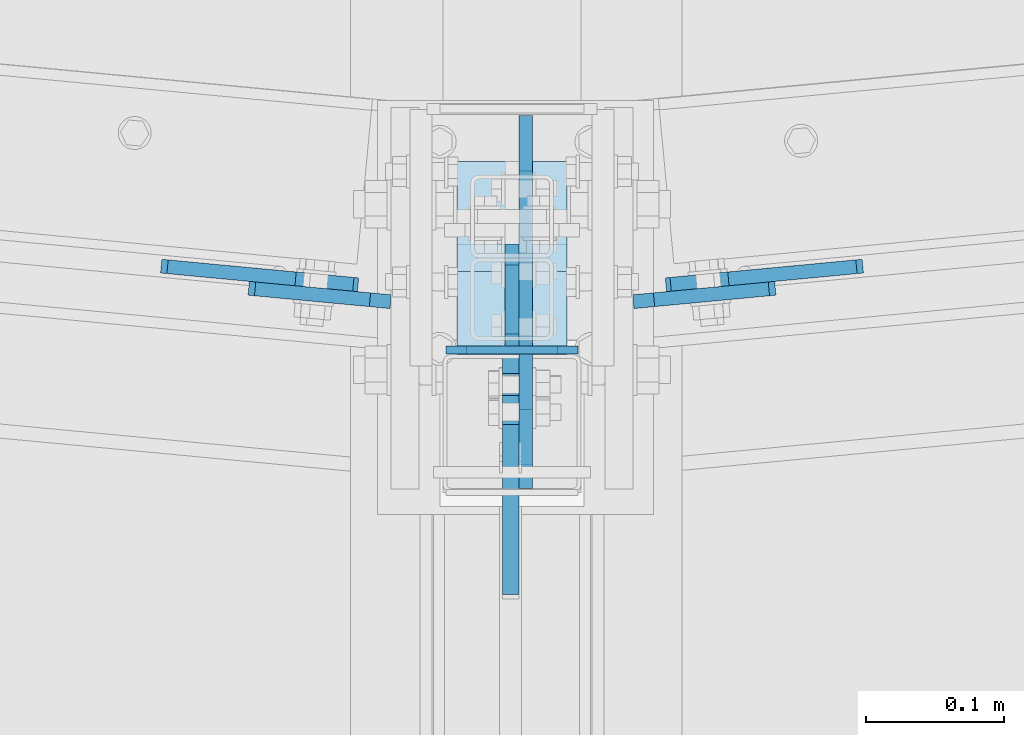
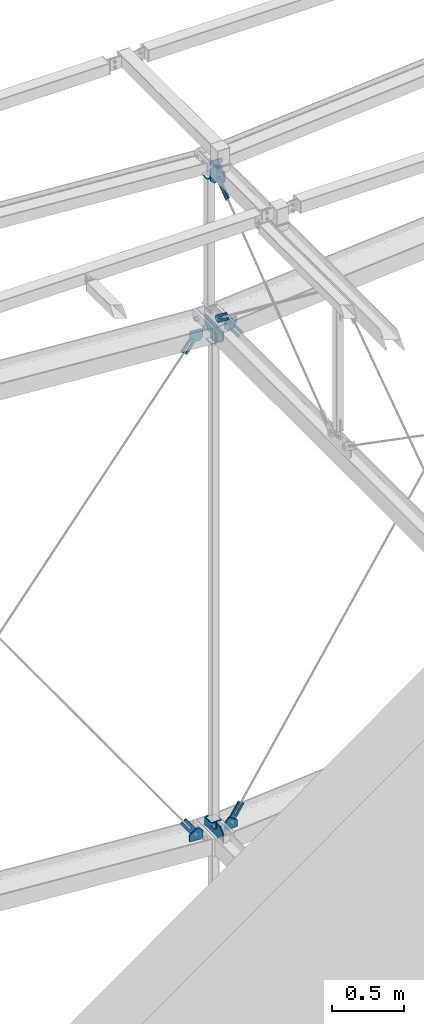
# One storey, part 129 of 271: 20 plates, 15 elements without a shape of their own.
"""IFC2X3 building model written with IfcOpenShell, lengths in millimetres."""

from ifc_helpers import new_model, si_unit, frame, origin_with_axes, place, context, subcontext, project, spatial, polyline, outline, extrude, boolean, material, type_object, element, aggregate, save


model = new_model("IFC2X3")

# Units and contexts
model_context = context("Model", 3, precision=1e-05, world=origin_with_axes())
body_context = subcontext(model_context, "Body", "Model", "MODEL_VIEW")
ifc_project = project(units=[si_unit("LENGTHUNIT", "METRE", prefix="MILLI"), si_unit("AREAUNIT", "SQUARE_METRE"), si_unit("VOLUMEUNIT", "CUBIC_METRE"), si_unit("MASSUNIT", "GRAM", prefix="KILO"), si_unit("TIMEUNIT", "SECOND"), si_unit("PLANEANGLEUNIT", "RADIAN"), si_unit("SOLIDANGLEUNIT", "STERADIAN"), si_unit("THERMODYNAMICTEMPERATUREUNIT", "DEGREE_CELSIUS"), si_unit("LUMINOUSINTENSITYUNIT", "LUMEN")], contexts=[model_context])

# Site, building, storey
site_placement = place(None, origin_with_axes())
site = spatial("IfcSite", under=ifc_project, at=site_placement, Name="Undefined", CompositionType="ELEMENT")
building_placement = place(site_placement, origin_with_axes())
building = spatial("IfcBuilding", under=site, at=building_placement, Name="Undefined", CompositionType="ELEMENT")
storey_placement = place(building_placement, origin_with_axes())
storey = spatial("IfcBuildingStorey", under=building, at=storey_placement, Name="Undefined", CompositionType="ELEMENT", Elevation=0.0)

# Assembly, plate
assembly_1_placement = place(storey_placement, origin_with_axes())
assembly_1 = element("IfcElementAssembly", 1, at=assembly_1_placement, inside=storey, AssemblyPlace="NOTDEFINED", PredefinedType="RIGID_FRAME")
ifc_material = material(Name="STEEL/S355JR")
plate_type_1 = type_object("IfcPlateType", Name="BL12*56", PredefinedType="NOTDEFINED")
plate_1_placement = place(assembly_1_placement, frame((6347.37568736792, 3668.01094283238, 18742.7637717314), z_axis=(-1.0, 0.0, 1.38777878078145e-17), x_axis=(0.0, 0.130151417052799, -0.991494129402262)))
plate_1 = element("IfcPlate", 2, at=plate_1_placement, type_object=plate_type_1, material=ifc_material, Name="BLACHA", ObjectType="BL12*56", context=body_context, shape_type="SweptSolid", body=[
    extrude(outline(polyline([(0.0, 0.0), (21.2132034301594, 1.09139364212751e-11), (39.5979804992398, 18.3847751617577), (39.5979804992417, 39.5979804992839), (-84.1457061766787, 163.341659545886), (-98.2878417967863, 149.199523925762), (-27.577165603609, 78.488853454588), (-38.8908729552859, 67.1751480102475), (-109.60155487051, 137.885818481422), (-123.743690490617, 123.743690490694), (0.0, 0.0)])), frame((0.0, 0.0, -6.0), z_axis=(0.0, 0.0, 1.0), x_axis=(1.0, 0.0, 0.0)), (0.0, 0.0, 1.0), 12.0),
])
aggregate(assembly_1, [plate_1])

assembly_2_placement = place(storey_placement, origin_with_axes())
assembly_2 = element("IfcElementAssembly", 3, at=assembly_2_placement, inside=storey, AssemblyPlace="NOTDEFINED", PredefinedType="RIGID_FRAME")
plate_2_placement = place(assembly_2_placement, frame((6347.37568736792, 3614.09767430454, 19935.1416729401), z_axis=(-1.0, 0.0, 1.38777878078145e-17), x_axis=(0.0, 0.991494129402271, -0.130151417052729)))
plate_2 = element("IfcPlate", 4, at=plate_2_placement, type_object=plate_type_1, material=ifc_material, Name="BLACHA", ObjectType="BL12*56", context=body_context, shape_type="SweptSolid", body=[
    extrude(outline(polyline([(0.0, 0.0), (21.2132034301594, 1.09139364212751e-11), (39.5979804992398, 18.3847751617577), (39.5979804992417, 39.5979804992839), (-70.0035705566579, 149.199523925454), (-84.1457061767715, 135.057388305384), (-13.4350299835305, 64.3467178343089), (-24.7487373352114, 53.0330085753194), (-95.4594192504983, 123.74369049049), (-109.601554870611, 109.601554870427), (0.0, 0.0)])), frame((0.0, 0.0, -6.0), z_axis=(0.0, 0.0, 1.0), x_axis=(1.0, 0.0, 0.0)), (0.0, 0.0, 1.0), 12.0),
])
aggregate(assembly_2, [plate_2])

# Assembly, plates
assembly_3_placement = place(storey_placement, origin_with_axes())
assembly_3 = element("IfcElementAssembly", 5, at=assembly_3_placement, inside=storey, AssemblyPlace="NOTDEFINED", PredefinedType="RIGID_FRAME")
plate_type_2 = type_object("IfcPlateType", Name="BL10*70", PredefinedType="NOTDEFINED")
plate_3_placement = place(assembly_3_placement, frame((6348.37568736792, 3664.92439872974, 18566.5999999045), z_axis=(-1.0, 0.0, 1.38777878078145e-17), x_axis=(0.0, 0.707106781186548, 0.707106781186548)))
plate_3 = element("IfcPlate", 6, at=plate_3_placement, type_object=plate_type_2, material=ifc_material, Name="BLACHA", ObjectType="BL10*70", context=body_context, shape_type="SweptSolid", body=[
    extrude(outline(polyline([(0.0, 0.0), (21.2132034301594, 1.09139364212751e-11), (56.5685424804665, 35.3553390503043), (56.568542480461, 56.5685424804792), (17.6776695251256, 95.4594192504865), (-38.890872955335, 38.8908729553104), (0.0, 0.0)])), frame((0.0, 0.0, -5.0), z_axis=(0.0, 0.0, 1.0), x_axis=(1.0, 0.0, 0.0)), (0.0, 0.0, 1.0), 10.0),
])
plate_4_placement = place(assembly_3_placement, frame((6348.37568736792, 3744.92439872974, 14402.0999999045), z_axis=(-1.0, 0.0, 1.38777878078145e-17), x_axis=(0.0, -0.707106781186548, -0.707106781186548)))
plate_4 = element("IfcPlate", 7, at=plate_4_placement, type_object=plate_type_2, material=ifc_material, Name="BLACHA", ObjectType="BL10*70", context=body_context, shape_type="SweptSolid", body=[
    extrude(outline(polyline([(0.0, 0.0), (21.2132034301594, 1.09139364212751e-11), (56.5685424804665, 35.3553390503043), (56.568542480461, 56.5685424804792), (17.6776695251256, 95.4594192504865), (-38.890872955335, 38.8908729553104), (0.0, 0.0)])), frame((0.0, 0.0, -5.0), z_axis=(0.0, 0.0, 1.0), x_axis=(1.0, 0.0, 0.0)), (0.0, 0.0, 1.0), 10.0),
])

# Assembly, plate
assembly_4_placement = place(storey_placement, origin_with_axes())
assembly_4 = element("IfcElementAssembly", 8, at=assembly_4_placement, inside=storey, AssemblyPlace="NOTDEFINED", PredefinedType="RIGID_FRAME")
plate_type_3 = type_object("IfcPlateType", Name="BL10*130", PredefinedType="NOTDEFINED")
plate_5_placement = place(assembly_4_placement, frame((6358.37568736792, 3567.92439872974, 20001.8499999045), z_axis=(-1.0, 0.0, 1.38777878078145e-17), x_axis=(0.0, 1.0, 0.0)))
plate_5 = element("IfcPlate", 9, at=plate_5_placement, type_object=plate_type_3, material=ifc_material, Name="BLACHA", ObjectType="BL10*130", context=body_context, shape_type="CSG", body=[
    boolean("DIFFERENCE", extrude(outline(polyline([(0.0, 15.0), (15.0, -1.59872115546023e-14), (256.0, 0.0), (271.0, 15.0), (271.0, 90.0000000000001), (231.0, 130.0), (50.0, 130.0), (0.0, 80.0), (0.0, 15.0)])), frame((0.0, 0.0, -5.0), z_axis=(0.0, 0.0, 1.0), x_axis=(1.0, 0.0, 0.0)), (0.0, 0.0, 1.0), 10.0), extrude(outline(polyline([(0.0, 0.0), (115.0, 0.0), (130.0, 15.0), (130.0, 81.0), (115.0, 96.0), (0.0, 96.0), (0.0, 0.0)])), frame((97.1775529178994, 130.0, 58.0000002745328), z_axis=(1.0, 0.0, 0.0), x_axis=(0.0, -1.0, 0.0)), (0.0, 0.0, 1.0), 300.0)),
])

assembly_5_placement = place(storey_placement, origin_with_axes())
assembly_5 = element("IfcElementAssembly", 10, at=assembly_5_placement, inside=storey, AssemblyPlace="NOTDEFINED", PredefinedType="RIGID_FRAME")
plate_type_4 = type_object("IfcPlateType", Name="BL8*80", PredefinedType="NOTDEFINED")
plate_6_placement = place(assembly_5_placement, frame((6308.37568736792, 3724.92439872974, 19867.8499999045), z_axis=(0.0, 0.0, 1.0), x_axis=(1.0, 0.0, 0.0)))
plate_6 = element("IfcPlate", 11, at=plate_6_placement, type_object=plate_type_4, material=ifc_material, Name="BLACHA", ObjectType="BL8*80", context=body_context, shape_type="SweptSolid", body=[
    extrude(outline(polyline([(0.0, 0.0), (80.0, 0.0), (80.0, 80.0), (0.0, 80.0), (0.0, 0.0)])), frame((0.0, 0.0, -4.0), z_axis=(0.0, 0.0, 1.0), x_axis=(1.0, 0.0, 0.0)), (0.0, 0.0, 1.0), 8.0),
])
aggregate(assembly_5, [plate_6])

# Plate
plate_7_placement = place(assembly_3_placement, frame((6388.37568736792, 3664.92439872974, 18507.5999999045), z_axis=(0.0, 0.0, 1.0), x_axis=(0.0, 1.0, 0.0)))
plate_7 = element("IfcPlate", 12, at=plate_7_placement, type_object=plate_type_4, material=ifc_material, Name="BLACHA", ObjectType="BL8*80", context=body_context, shape_type="SweptSolid", body=[
    extrude(outline(polyline([(0.0, 0.0), (80.0, 0.0), (80.0, 80.0), (0.0, 80.0), (0.0, 0.0)])), frame((0.0, 0.0, -4.0), z_axis=(0.0, 0.0, 1.0), x_axis=(1.0, 0.0, 0.0)), (0.0, 0.0, 1.0), 8.0),
])

plate_8_placement = place(assembly_3_placement, frame((6388.37568736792, 3744.92439872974, 14461.0999999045), z_axis=(0.0, 0.0, -1.0), x_axis=(0.0, -1.0, 0.0)))
plate_8 = element("IfcPlate", 13, at=plate_8_placement, type_object=plate_type_4, material=ifc_material, Name="BLACHA", ObjectType="BL8*80", context=body_context, shape_type="SweptSolid", body=[
    extrude(outline(polyline([(0.0, 0.0), (80.0, 0.0), (80.0, 80.0), (0.0, 80.0), (0.0, 0.0)])), frame((0.0, 0.0, -4.0), z_axis=(0.0, 0.0, 1.0), x_axis=(1.0, 0.0, 0.0)), (0.0, 0.0, 1.0), 8.0),
])

aggregate(assembly_3, [plate_7, plate_3, plate_8, plate_4])

plate_type_5 = type_object("IfcPlateType", Name="BL6*96", PredefinedType="NOTDEFINED")
plate_9_placement = place(assembly_4_placement, frame((6300.37568709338, 3668.10195164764, 19861.8499999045), z_axis=(0.0, 1.0, 0.0), x_axis=(0.0, 0.0, 1.0)))
plate_9 = element("IfcPlate", 14, at=plate_9_placement, type_object=plate_type_5, material=ifc_material, Name="BLACHA", ObjectType="BL6*96", context=body_context, shape_type="SweptSolid", body=[
    extrude(outline(polyline([(0.0, 30.0), (30.0, 1.17239551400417e-13), (125.0, 1.13686837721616e-13), (140.0, 15.0000000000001), (140.0, 80.9999999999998), (125.0, 95.9999999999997), (30.0, 95.9999999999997), (0.0, 65.9999999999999), (0.0, 30.0)])), frame((0.0, 0.0, -3.0), z_axis=(0.0, 0.0, 1.0), x_axis=(1.0, 0.0, 0.0)), (0.0, 0.0, 1.0), 6.0),
])

plate_type_6 = type_object("IfcPlateType", Name="BL6*50", PredefinedType="NOTDEFINED")
plate_10_placement = place(assembly_4_placement, frame((6300.37568709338, 3668.10195164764, 20056.8499999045), z_axis=(0.0, -1.0, 0.0), x_axis=(0.0, 0.0, -1.0)))
plate_10 = element("IfcPlate", 15, at=plate_10_placement, type_object=plate_type_6, material=ifc_material, Name="BLACHA", ObjectType="BL6*50", context=body_context, shape_type="SweptSolid", body=[
    extrude(outline(polyline([(0.0, 0.0), (35.0, 0.0), (50.0, 15.0), (50.0, 81.0), (35.0, 96.0), (0.0, 96.0), (0.0, 0.0)])), frame((0.0, 0.0, -3.0), z_axis=(0.0, 0.0, 1.0), x_axis=(1.0, 0.0, 0.0)), (0.0, 0.0, 1.0), 6.0),
])

aggregate(assembly_4, [plate_9, plate_10, plate_5])

# Assembly, plate
assembly_6_placement = place(storey_placement, origin_with_axes())
assembly_6 = element("IfcElementAssembly", 16, at=assembly_6_placement, inside=storey, AssemblyPlace="NOTDEFINED", PredefinedType="RIGID_FRAME")
plate_type_7 = type_object("IfcPlateType", Name="BL10*56", PredefinedType="NOTDEFINED")
plate_11_placement = place(assembly_6_placement, frame((6459.89796919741, 3715.45126297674, 18576.2616991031), z_axis=(-0.0939225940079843, 0.995579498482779, 9.23882579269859e-05), x_axis=(0.162055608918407, 0.0151967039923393, 0.986664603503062)))
plate_11 = element("IfcPlate", 17, at=plate_11_placement, type_object=plate_type_7, material=ifc_material, Name="BLACHA", ObjectType="BL10*56", context=body_context, shape_type="SweptSolid", body=[
    extrude(outline(polyline([(0.0, 0.0), (21.2132034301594, 1.09139364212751e-11), (39.5650825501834, 18.3518791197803), (39.565082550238, 39.5650825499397), (-73.5719985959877, 152.702163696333), (-87.714134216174, 138.560028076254), (-17.0034599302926, 67.8493576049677), (-28.2842712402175, 56.5685424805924), (-98.9949493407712, 127.279220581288), (-113.137084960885, 113.137084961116), (0.0, 0.0)])), frame((0.0, 0.0, -5.0), z_axis=(0.0, 0.0, 1.0), x_axis=(1.0, 0.0, 0.0)), (0.0, 0.0, 1.0), 10.0),
])
aggregate(assembly_6, [plate_11])

assembly_7_placement = place(storey_placement, origin_with_axes())
assembly_7 = element("IfcElementAssembly", 18, at=assembly_7_placement, inside=storey, AssemblyPlace="NOTDEFINED", PredefinedType="RIGID_FRAME")
plate_12_placement = place(assembly_7_placement, frame((6509.82885131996, 3720.15930429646, 14359.8470228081), z_axis=(-0.0939225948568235, 0.9955794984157, -9.2248054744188e-05), x_axis=(-0.982184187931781, -0.0926740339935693, -0.163480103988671)))
plate_12 = element("IfcPlate", 19, at=plate_12_placement, type_object=plate_type_7, material=ifc_material, Name="BLACHA", ObjectType="BL10*56", context=body_context, shape_type="SweptSolid", body=[
    extrude(outline(polyline([(0.0, 0.0), (21.2132034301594, 1.09139364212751e-11), (39.5650482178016, 18.3518447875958), (39.5650482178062, 39.5650482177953), (-73.5720367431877, 152.702133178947), (-87.7141723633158, 138.559997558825), (-17.0034942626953, 67.8493194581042), (-28.2842712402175, 56.5685424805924), (-98.9949493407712, 127.279220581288), (-113.137084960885, 113.137084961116), (0.0, 0.0)])), frame((0.0, 0.0, -5.0), z_axis=(0.0, 0.0, 1.0), x_axis=(1.0, 0.0, 0.0)), (0.0, 0.0, 1.0), 10.0),
])
aggregate(assembly_7, [plate_12])

assembly_8_placement = place(storey_placement, origin_with_axes())
assembly_8 = element("IfcElementAssembly", 20, at=assembly_8_placement, inside=storey, AssemblyPlace="NOTDEFINED", PredefinedType="RIGID_FRAME")
plate_13_placement = place(assembly_8_placement, frame((6191.57713234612, 3719.71982547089, 18608.8592946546), z_axis=(0.0939225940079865, 0.995579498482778, 9.2388257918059e-05), x_axis=(0.982301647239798, -0.0926850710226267, 0.162766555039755)))
plate_13 = element("IfcPlate", 21, at=plate_13_placement, type_object=plate_type_7, material=ifc_material, Name="BLACHA", ObjectType="BL10*56", context=body_context, shape_type="SweptSolid", body=[
    extrude(outline(polyline([(0.0, 0.0), (21.2132034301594, 1.09139364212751e-11), (39.564743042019, 18.3515396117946), (39.5647430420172, 39.5647430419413), (-73.5723419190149, 152.701828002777), (-87.7144775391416, 138.559692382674), (-17.0037994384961, 67.8490142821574), (-28.2842712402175, 56.5685424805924), (-98.9949493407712, 127.279220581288), (-113.137084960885, 113.137084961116), (0.0, 0.0)])), frame((0.0, 0.0, -5.0), z_axis=(0.0, 0.0, 1.0), x_axis=(1.0, 0.0, 0.0)), (0.0, 0.0, 1.0), 10.0),
])
aggregate(assembly_8, [plate_13])

assembly_9_placement = place(storey_placement, origin_with_axes())
assembly_9 = element("IfcElementAssembly", 22, at=assembly_9_placement, inside=storey, AssemblyPlace="NOTDEFINED", PredefinedType="RIGID_FRAME")
plate_14_placement = place(assembly_9_placement, frame((6232.22246054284, 3715.88898372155, 14392.4114099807), z_axis=(0.0939225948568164, 0.995579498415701, -9.22480547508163e-05), x_axis=(-0.162765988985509, 0.0152638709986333, -0.986546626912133)))
plate_14 = element("IfcPlate", 23, at=plate_14_placement, type_object=plate_type_7, material=ifc_material, Name="BLACHA", ObjectType="BL10*56", context=body_context, shape_type="SweptSolid", body=[
    extrude(outline(polyline([(0.0, 0.0), (21.2132034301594, 1.09139364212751e-11), (39.5647087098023, 18.3515052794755), (39.5647087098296, 39.5647087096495), (-73.5723724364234, 152.701797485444), (-87.7145080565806, 138.559661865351), (-17.0038337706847, 67.8489837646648), (-28.2842712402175, 56.5685424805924), (-98.9949493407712, 127.279220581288), (-113.137084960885, 113.137084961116), (0.0, 0.0)])), frame((0.0, 0.0, -5.0), z_axis=(0.0, 0.0, 1.0), x_axis=(1.0, 0.0, 0.0)), (0.0, 0.0, 1.0), 10.0),
])
aggregate(assembly_9, [plate_14])

assembly_10_placement = place(storey_placement, origin_with_axes())
assembly_10 = element("IfcElementAssembly", 24, at=assembly_10_placement, inside=storey, AssemblyPlace="NOTDEFINED", PredefinedType="RIGID_FRAME")
plate_type_8 = type_object("IfcPlateType", Name="BL10*99", PredefinedType="NOTDEFINED")
plate_15_placement = place(assembly_10_placement, frame((6436.34528885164, 3703.17901832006, 18641.0499999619), z_axis=(-0.0939225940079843, 0.995579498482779, 9.23882579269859e-05), x_axis=(0.995579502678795, 0.0939225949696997, 0.0)))
plate_15 = element("IfcPlate", 25, at=plate_15_placement, type_object=plate_type_8, material=ifc_material, Name="BLACHA", ObjectType="BL10*99", context=body_context, shape_type="SweptSolid", body=[
    extrude(outline(polyline([(0.0, 15.0), (15.0, -1.59872115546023e-14), (98.5967864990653, 7.26885218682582e-12), (98.5967864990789, 54.8126907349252), (36.8640327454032, 99.0619659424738), (29.9999999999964, 99.0619659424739), (-2.52972563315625e-12, 69.0619659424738), (0.0, 15.0)])), frame((0.0, 0.0, -5.0), z_axis=(0.0, 0.0, 1.0), x_axis=(1.0, 0.0, 0.0)), (0.0, 0.0, 1.0), 10.0),
])
aggregate(assembly_10, [plate_15])

assembly_11_placement = place(storey_placement, origin_with_axes())
assembly_11 = element("IfcElementAssembly", 26, at=assembly_11_placement, inside=storey, AssemblyPlace="NOTDEFINED", PredefinedType="RIGID_FRAME")
plate_16_placement = place(assembly_11_placement, frame((6539.14422400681, 3712.87764085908, 14327.6499998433), z_axis=(-0.0939225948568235, 0.9955794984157, -9.2248054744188e-05), x_axis=(-0.995579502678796, -0.0939225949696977, 0.0)))
plate_16 = element("IfcPlate", 27, at=plate_16_placement, type_object=plate_type_8, material=ifc_material, Name="BLACHA", ObjectType="BL10*99", context=body_context, shape_type="SweptSolid", body=[
    extrude(outline(polyline([(0.0, 0.0), (88.254516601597, -1.55474100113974e-12), (103.254516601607, 14.9999999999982), (103.254516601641, 69.0442123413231), (73.2545166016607, 99.044212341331), (61.764698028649, 99.0442123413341), (-2.72848410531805e-12, 54.8396263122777), (0.0, 0.0)])), frame((0.0, 0.0, -5.0), z_axis=(0.0, 0.0, 1.0), x_axis=(1.0, 0.0, 0.0)), (0.0, 0.0, 1.0), 10.0),
])
aggregate(assembly_11, [plate_16])

assembly_12_placement = place(storey_placement, origin_with_axes())
assembly_12 = element("IfcElementAssembly", 28, at=assembly_12_placement, inside=storey, AssemblyPlace="NOTDEFINED", PredefinedType="RIGID_FRAME")
plate_17_placement = place(assembly_12_placement, frame((6162.24553504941, 3712.4404524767, 18641.0500000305), z_axis=(0.0939225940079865, 0.995579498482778, 9.2388257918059e-05), x_axis=(0.995579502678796, -0.0939225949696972, 0.0)))
plate_17 = element("IfcPlate", 29, at=plate_17_placement, type_object=plate_type_8, material=ifc_material, Name="BLACHA", ObjectType="BL10*99", context=body_context, shape_type="SweptSolid", body=[
    extrude(outline(polyline([(0.0, 0.0), (83.5956039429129, -2.15915635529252e-11), (98.5956039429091, 14.9999999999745), (98.5956039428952, 69.0616836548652), (68.5956039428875, 99.0616836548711), (61.7323608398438, 99.0616836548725), (-5.54791768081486e-11, 54.8126907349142), (0.0, 0.0)])), frame((0.0, 0.0, -5.0), z_axis=(0.0, 0.0, 1.0), x_axis=(1.0, 0.0, 0.0)), (0.0, 0.0, 1.0), 10.0),
])
aggregate(assembly_12, [plate_17])

assembly_13_placement = place(storey_placement, origin_with_axes())
assembly_13 = element("IfcElementAssembly", 30, at=assembly_13_placement, inside=storey, AssemblyPlace="NOTDEFINED", PredefinedType="RIGID_FRAME")
plate_18_placement = place(assembly_13_placement, frame((6260.40615675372, 3703.18062618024, 14327.6499997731), z_axis=(0.0939225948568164, 0.995579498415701, -9.22480547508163e-05), x_axis=(-0.995579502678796, 0.0939225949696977, 0.0)))
plate_18 = element("IfcPlate", 31, at=plate_18_placement, type_object=plate_type_8, material=ifc_material, Name="BLACHA", ObjectType="BL10*99", context=body_context, shape_type="SweptSolid", body=[
    extrude(outline(polyline([(0.0, 15.0), (15.0, -1.59872115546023e-14), (103.255058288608, 1.27826638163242e-11), (103.255058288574, 54.8396263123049), (41.4907493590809, 99.0439300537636), (30.00000000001, 99.0439300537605), (6.98277852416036e-12, 69.0439300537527), (0.0, 15.0)])), frame((0.0, 0.0, -5.0), z_axis=(0.0, 0.0, 1.0), x_axis=(1.0, 0.0, 0.0)), (0.0, 0.0, 1.0), 10.0),
])
aggregate(assembly_13, [plate_18])

assembly_14_placement = place(storey_placement, origin_with_axes())
assembly_14 = element("IfcElementAssembly", 32, at=assembly_14_placement, inside=storey, AssemblyPlace="NOTDEFINED", PredefinedType="RIGID_FRAME")
plate_type_9 = type_object("IfcPlateType", Name="BL10*110", PredefinedType="NOTDEFINED")
plate_19_placement = place(assembly_14_placement, frame((6358.37568736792, 3584.92439872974, 18641.5999999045), z_axis=(-1.0, 0.0, 1.38777878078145e-17), x_axis=(0.0, 1.0, 0.0)))
plate_19 = element("IfcPlate", 33, at=plate_19_placement, type_object=plate_type_9, material=ifc_material, Name="BLACHA", ObjectType="BL10*110", context=body_context, shape_type="SweptSolid", body=[
    extrude(outline(polyline([(0.0, 0.0), (253.0, 0.0), (253.0, 70.0), (213.0, 110.0), (40.0, 110.0), (0.0, 70.0), (0.0, 0.0)])), frame((0.0, 0.0, -5.0), z_axis=(0.0, 0.0, 1.0), x_axis=(1.0, 0.0, 0.0)), (0.0, 0.0, 1.0), 10.0),
])
aggregate(assembly_14, [plate_19])

assembly_15_placement = place(storey_placement, origin_with_axes())
assembly_15 = element("IfcElementAssembly", 34, at=assembly_15_placement, inside=storey, AssemblyPlace="NOTDEFINED", PredefinedType="RIGID_FRAME")
plate_20_placement = place(assembly_15_placement, frame((6358.37568736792, 3837.92439872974, 14327.0999999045), z_axis=(-1.0, 0.0, 1.38777878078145e-17), x_axis=(0.0, -1.0, 0.0)))
plate_20 = element("IfcPlate", 35, at=plate_20_placement, type_object=plate_type_9, material=ifc_material, Name="BLACHA", ObjectType="BL10*110", context=body_context, shape_type="SweptSolid", body=[
    extrude(outline(polyline([(0.0, 0.0), (253.0, 0.0), (253.0, 70.0), (213.0, 110.0), (40.0, 110.0), (0.0, 70.0), (0.0, 0.0)])), frame((0.0, 0.0, -5.0), z_axis=(0.0, 0.0, 1.0), x_axis=(1.0, 0.0, 0.0)), (0.0, 0.0, 1.0), 10.0),
])
aggregate(assembly_15, [plate_20])

save(model, "model.ifc")
